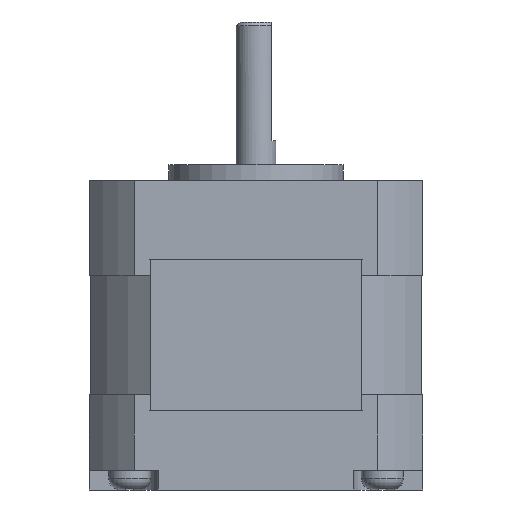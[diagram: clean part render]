
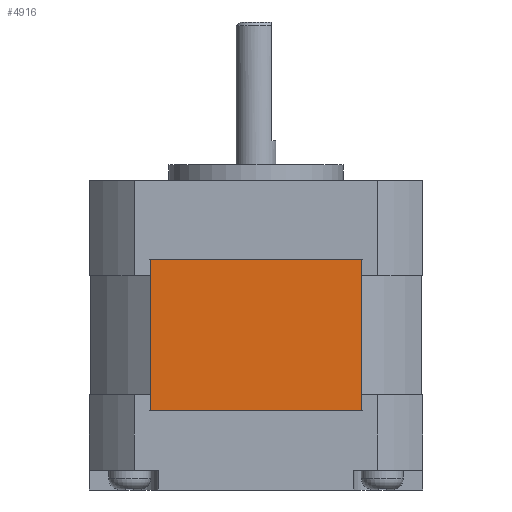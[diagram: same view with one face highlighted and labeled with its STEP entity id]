
A CAD part, front view. The second image highlights one B-rep face of the part: STEP entity #4916.
In plain terms, the highlighted planar face has unit normal (0, -1, 0).
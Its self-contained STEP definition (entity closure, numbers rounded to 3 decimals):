
#849 = EDGE_CURVE ( 'NONE', #5511, #5518, #1212, .T. ) ;
#850 = EDGE_CURVE ( 'NONE', #5520, #5518, #1217, .T. ) ;
#853 = EDGE_CURVE ( 'NONE', #5514, #5511, #1224, .T. ) ;
#870 = EDGE_CURVE ( 'NONE', #5514, #5520, #1251, .T. ) ;
#1212 = LINE ( 'NONE', #3498, #1213 ) ;
#1213 = VECTOR ( 'NONE', #3495, 1000. ) ;
#1216 = VECTOR ( 'NONE', #3463, 1000. ) ;
#1217 = LINE ( 'NONE', #3538, #1219 ) ;
#1219 = VECTOR ( 'NONE', #3487, 1000. ) ;
#1224 = LINE ( 'NONE', #3499, #1216 ) ;
#1251 = LINE ( 'NONE', #3315, #1252 ) ;
#1252 = VECTOR ( 'NONE', #3308, 1000. ) ;
#1862 = FACE_OUTER_BOUND ( 'NONE', #4149, .T. ) ;
#2561 = CARTESIAN_POINT ( 'NONE',  ( 13.257, -20.9, -23. ) ) ;
#2562 = PLANE ( 'NONE',  #4503 ) ;
#2571 = DIRECTION ( 'NONE',  ( 0., 1., 0. ) ) ;
#2572 = DIRECTION ( 'NONE',  ( 0., 0., 1. ) ) ;
#3166 = CARTESIAN_POINT ( 'NONE',  ( 13.257, -20.9, -4. ) ) ;
#3169 = CARTESIAN_POINT ( 'NONE',  ( 13.257, -20.9, -23. ) ) ;
#3173 = CARTESIAN_POINT ( 'NONE',  ( -13.257, -20.9, -4. ) ) ;
#3175 = CARTESIAN_POINT ( 'NONE',  ( -13.257, -20.9, -23. ) ) ;
#3308 = DIRECTION ( 'NONE',  ( -1., 0., 0. ) ) ;
#3315 = CARTESIAN_POINT ( 'NONE',  ( 13.257, -20.9, -23. ) ) ;
#3463 = DIRECTION ( 'NONE',  ( 0., 0., 1. ) ) ;
#3487 = DIRECTION ( 'NONE',  ( 0., 0., 1. ) ) ;
#3495 = DIRECTION ( 'NONE',  ( -1., 0., 0. ) ) ;
#3498 = CARTESIAN_POINT ( 'NONE',  ( 13.257, -20.9, -4. ) ) ;
#3499 = CARTESIAN_POINT ( 'NONE',  ( 13.257, -20.9, -23. ) ) ;
#3538 = CARTESIAN_POINT ( 'NONE',  ( -13.257, -20.9, -23. ) ) ;
#3767 = ORIENTED_EDGE ( 'NONE', *, *, #849, .T. ) ;
#3768 = ORIENTED_EDGE ( 'NONE', *, *, #850, .F. ) ;
#3769 = ORIENTED_EDGE ( 'NONE', *, *, #870, .F. ) ;
#3770 = ORIENTED_EDGE ( 'NONE', *, *, #853, .T. ) ;
#4149 = EDGE_LOOP ( 'NONE', ( #3767, #3768, #3769, #3770 ) ) ;
#4503 = AXIS2_PLACEMENT_3D ( 'NONE', #2561, #2571, #2572 ) ;
#4916 = ADVANCED_FACE ( 'NONE', ( #1862 ), #2562, .F. ) ;
#5511 = VERTEX_POINT ( 'NONE', #3166 ) ;
#5514 = VERTEX_POINT ( 'NONE', #3169 ) ;
#5518 = VERTEX_POINT ( 'NONE', #3173 ) ;
#5520 = VERTEX_POINT ( 'NONE', #3175 ) ;
